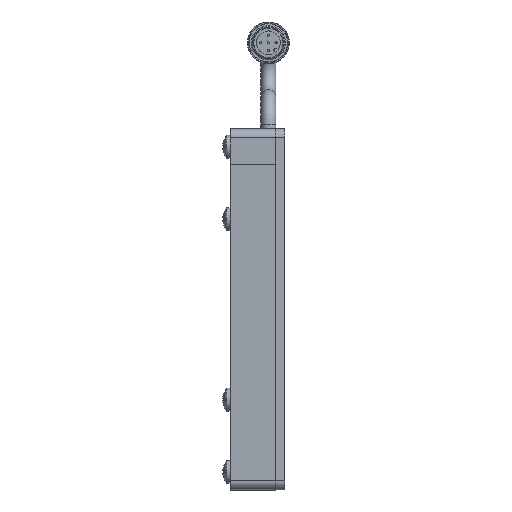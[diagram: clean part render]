
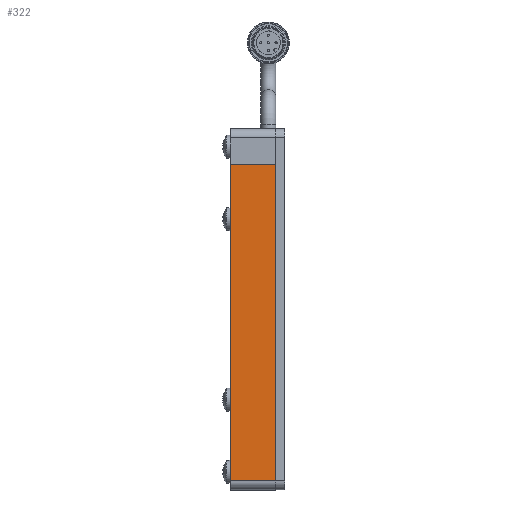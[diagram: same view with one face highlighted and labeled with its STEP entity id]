
A CAD part, left-side view. The second image highlights one B-rep face of the part: STEP entity #322.
In plain terms, the highlighted planar face has unit normal (-1, 0, 0) as drawn and (0, 0, -1) by its records, which use the part's own axes.
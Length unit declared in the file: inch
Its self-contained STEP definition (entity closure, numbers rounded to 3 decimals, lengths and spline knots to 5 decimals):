
#180 = CARTESIAN_POINT ( 'NONE',  ( -2., 0.3125, -0.25 ) ) ;
#322 = ADVANCED_FACE ( 'NONE', ( #6187 ), #2968, .F. ) ;
#613 = CARTESIAN_POINT ( 'NONE',  ( -2., -0.3125, -0.25 ) ) ;
#824 = CARTESIAN_POINT ( 'NONE',  ( -2.5, 0.3125, -0.25 ) ) ;
#988 = CARTESIAN_POINT ( 'NONE',  ( 2.375, -0.3125, -0.25 ) ) ;
#1726 = DIRECTION ( 'NONE',  ( 0., 0., 1. ) ) ;
#1984 = VERTEX_POINT ( 'NONE', #9565 ) ;
#2780 = CARTESIAN_POINT ( 'NONE',  ( 2.375, 0.3125, -0.25 ) ) ;
#2934 = EDGE_LOOP ( 'NONE', ( #14986, #9075, #7160, #15073 ) ) ;
#2968 = PLANE ( 'NONE',  #4873 ) ;
#3193 = EDGE_CURVE ( 'NONE', #1984, #4474, #8879, .T. ) ;
#3343 = VECTOR ( 'NONE', #12109, 39.37008 ) ;
#4130 = EDGE_CURVE ( 'NONE', #4474, #14082, #5858, .T. ) ;
#4474 = VERTEX_POINT ( 'NONE', #988 ) ;
#4480 = CARTESIAN_POINT ( 'NONE',  ( -2., -0.3125, -0.25 ) ) ;
#4729 = DIRECTION ( 'NONE',  ( -1., 0., 0. ) ) ;
#4873 = AXIS2_PLACEMENT_3D ( 'NONE', #12290, #1726, #7630 ) ;
#5858 = LINE ( 'NONE', #10518, #14387 ) ;
#5885 = EDGE_CURVE ( 'NONE', #1984, #13583, #7814, .T. ) ;
#6187 = FACE_OUTER_BOUND ( 'NONE', #2934, .T. ) ;
#6257 = EDGE_CURVE ( 'NONE', #14082, #13583, #12588, .T. ) ;
#7160 = ORIENTED_EDGE ( 'NONE', *, *, #4130, .T. ) ;
#7630 = DIRECTION ( 'NONE',  ( 1., 0., 0. ) ) ;
#7814 = LINE ( 'NONE', #824, #11979 ) ;
#8879 = LINE ( 'NONE', #2780, #3343 ) ;
#9075 = ORIENTED_EDGE ( 'NONE', *, *, #3193, .T. ) ;
#9365 = DIRECTION ( 'NONE',  ( 0., 1., 0. ) ) ;
#9485 = VECTOR ( 'NONE', #9365, 39.37008 ) ;
#9565 = CARTESIAN_POINT ( 'NONE',  ( 2.375, 0.3125, -0.25 ) ) ;
#10518 = CARTESIAN_POINT ( 'NONE',  ( -2.5, -0.3125, -0.25 ) ) ;
#10977 = DIRECTION ( 'NONE',  ( -1., 0., 0. ) ) ;
#11979 = VECTOR ( 'NONE', #4729, 39.37008 ) ;
#12109 = DIRECTION ( 'NONE',  ( 0., -1., 0. ) ) ;
#12290 = CARTESIAN_POINT ( 'NONE',  ( -2.5, 0.3125, -0.25 ) ) ;
#12588 = LINE ( 'NONE', #4480, #9485 ) ;
#13583 = VERTEX_POINT ( 'NONE', #180 ) ;
#14082 = VERTEX_POINT ( 'NONE', #613 ) ;
#14387 = VECTOR ( 'NONE', #10977, 39.37008 ) ;
#14986 = ORIENTED_EDGE ( 'NONE', *, *, #5885, .F. ) ;
#15073 = ORIENTED_EDGE ( 'NONE', *, *, #6257, .T. ) ;
